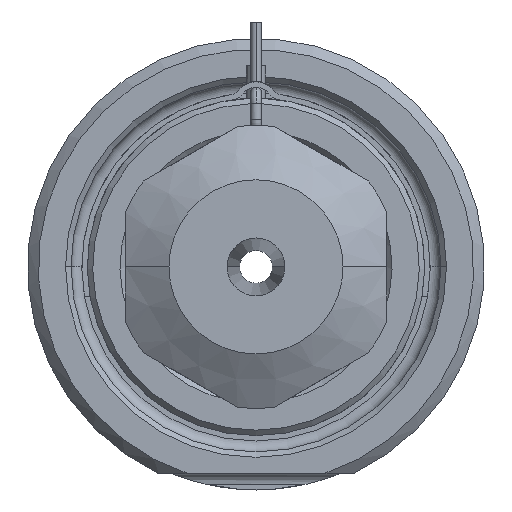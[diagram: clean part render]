
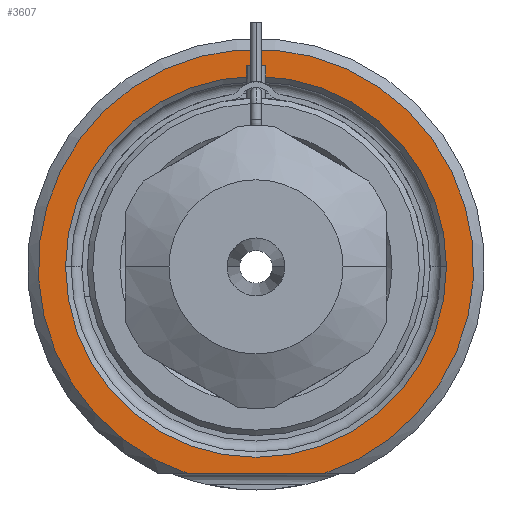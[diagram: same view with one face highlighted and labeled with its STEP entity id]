
A CAD part, front view. The second image highlights one B-rep face of the part: STEP entity #3607.
In plain terms, the highlighted planar face has unit normal (0, -1, 0).
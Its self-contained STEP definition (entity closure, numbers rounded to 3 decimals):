
#688=DIRECTION('',(1.,0.,0.));
#689=VECTOR('',#688,12.49);
#690=CARTESIAN_POINT('',(-6.245,0.,-19.));
#691=LINE('',#690,#689);
#692=CARTESIAN_POINT('',(0.,0.,0.));
#693=DIRECTION('',(0.,1.,0.));
#694=DIRECTION('',(-1.,0.,0.));
#695=AXIS2_PLACEMENT_3D('',#692,#693,#694);
#697=CARTESIAN_POINT('',(0.,0.,0.));
#698=DIRECTION('',(0.,1.,0.));
#699=DIRECTION('',(1.,0.,0.));
#700=AXIS2_PLACEMENT_3D('',#697,#698,#699);
#806=CARTESIAN_POINT('',(0.,0.,0.));
#807=DIRECTION('',(0.,-1.,0.));
#808=DIRECTION('',(0.312,0.,-0.95));
#809=AXIS2_PLACEMENT_3D('',#806,#807,#808);
#2430=CARTESIAN_POINT('',(-17.5,0.,0.));
#2431=CARTESIAN_POINT('',(17.5,0.,0.));
#2432=VERTEX_POINT('',#2430);
#2433=VERTEX_POINT('',#2431);
#2474=CARTESIAN_POINT('',(-6.245,0.,-19.));
#2475=CARTESIAN_POINT('',(6.245,0.,-19.));
#2476=VERTEX_POINT('',#2474);
#2477=VERTEX_POINT('',#2475);
#3591=CARTESIAN_POINT('',(0.,0.,0.));
#3592=DIRECTION('',(0.,-1.,0.));
#3593=DIRECTION('',(1.,0.,0.));
#3594=AXIS2_PLACEMENT_3D('',#3591,#3592,#3593);
#3595=PLANE('',#3594);
#3597=ORIENTED_EDGE('',*,*,#3596,.F.);
#3599=ORIENTED_EDGE('',*,*,#3598,.F.);
#3600=EDGE_LOOP('',(#3597,#3599));
#3601=FACE_OUTER_BOUND('',#3600,.F.);
#3602=ORIENTED_EDGE('',*,*,#3581,.F.);
#3604=ORIENTED_EDGE('',*,*,#3603,.F.);
#3605=EDGE_LOOP('',(#3602,#3604));
#3606=FACE_BOUND('',#3605,.F.);
#3607=ADVANCED_FACE('',(#3601,#3606),#3595,.T.);
#696=CIRCLE('',#695,17.5);
#701=CIRCLE('',#700,17.5);
#810=CIRCLE('',#809,20.);
#3581=EDGE_CURVE('',#2432,#2433,#696,.T.);
#3596=EDGE_CURVE('',#2476,#2477,#691,.T.);
#3598=EDGE_CURVE('',#2477,#2476,#810,.T.);
#3603=EDGE_CURVE('',#2433,#2432,#701,.T.);
